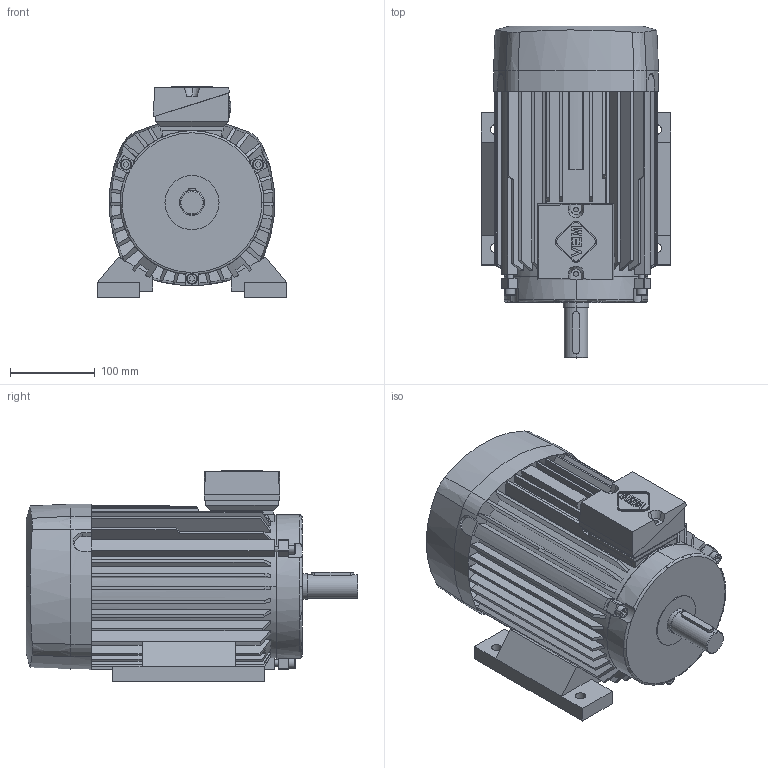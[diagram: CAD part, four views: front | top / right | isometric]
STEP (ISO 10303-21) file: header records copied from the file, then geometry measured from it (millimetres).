
FILE_DESCRIPTION(('no description'),'unknown implementation level');
FILE_NAME('t176d459b2882450d902be76022c60dd0.stp',' ',('VEM motors GmbH'),('CADClick - KiM GmbH - www.kimweb.de'),'unknown preprocess','ACIS','unknown authorization');
FILE_SCHEMA(('automotive_design'));
Length unit declared in the file: millimetre
Products named in the file (1): KA05_komplett_Kat|KA05_komplett_Kat_Standard2_Standard|KD05_Kat_Standard2_Standard;NONE
Bounding box: 224 x 392 x 249.05 mm (x, y, z)
Volume: 9664827.7 mm3; surface area: 539775.3 mm2
Topology: 1 solids, 1 shells, 427 faces, 1199 edges, 787 vertices
Faces by surface type: plane 252, cylinder 111, cone 52, torus 11, sphere 1
Entity records: 28750 total; most frequent: CARTESIAN_POINT 4322, STYLED_ITEM 2414, PRESENTATION_STYLE_ASSIGNMENT 2414, COLOUR_RGB 2414, ORIENTED_EDGE 2398, DIRECTION 2248, EDGE_CURVE 1199, CURVE_STYLE 1199
